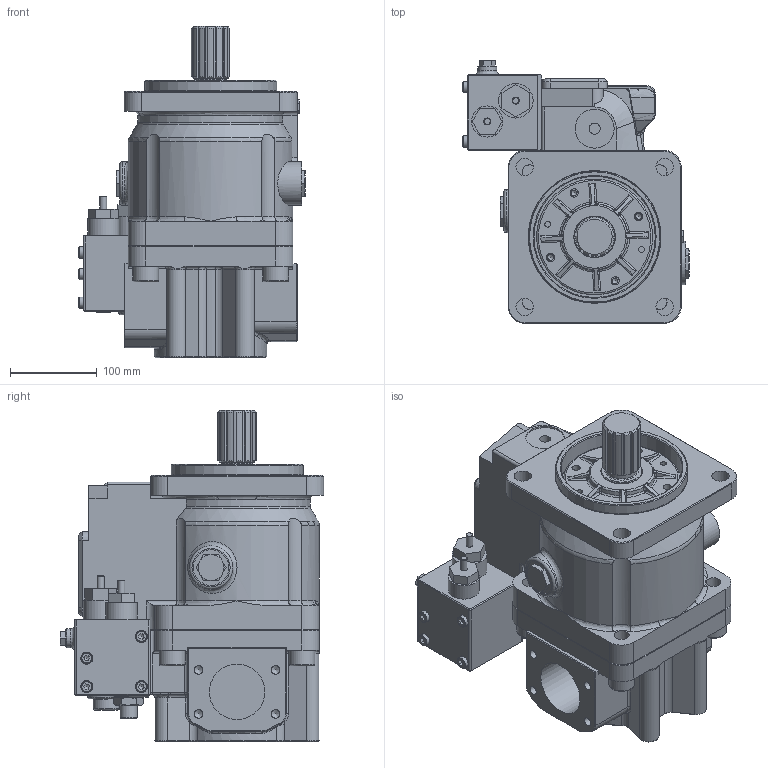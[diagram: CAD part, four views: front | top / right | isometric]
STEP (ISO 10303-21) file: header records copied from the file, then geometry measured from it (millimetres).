
FILE_DESCRIPTION((''),'2;1');
FILE_NAME('I:\Inventor\K3V, M2X\MODEL LIBRARY\K3VL140B 1ALSM L1.stp','2006-11-06T09:15:35',('mnorman'),(''),'Autodesk Inventor 11','Autodesk Inventor 11','');
FILE_SCHEMA(('AUTOMOTIVE_DESIGN { 1 0 10303 214 1 1 1 1 }'));
Length unit declared in the file: millimetre
Products named in the file (1): Part46
Bounding box: 261 x 304 x 382.5 mm (x, y, z)
Volume: 11976402.7 mm3; surface area: 582120.3 mm2
Topology: 14 solids, 14 shells, 1076 faces, 2563 edges, 1568 vertices
Faces by surface type: plane 441, bspline 237, cylinder 236, cone 134, torus 26, sphere 2
Full cylindrical faces by diameter (mm): 8 x6, 9.5 x4, 12.717 x1, 13 x4, 16 x2, 20 x10, 21 x1, 22 x1, 30 x5, 32 x1, 36 x1, 36.7 x1, 40 x1, 41 x2, 42 x1, 45 x1, 48 x2, 50 x2, 64 x1, 68 x1, 75 x1, 82.55 x1, 90 x2, 100 x1, 134 x1, 140 x1, 152.4 x1
Entity records: 39010 total; most frequent: CARTESIAN_POINT 16607, ORIENTED_EDGE 4592, DIRECTION 4450, EDGE_CURVE 2296, AXIS2_PLACEMENT_3D 1728, VERTEX_POINT 1489, EDGE_LOOP 1341, FACE_OUTER_BOUND 1075
